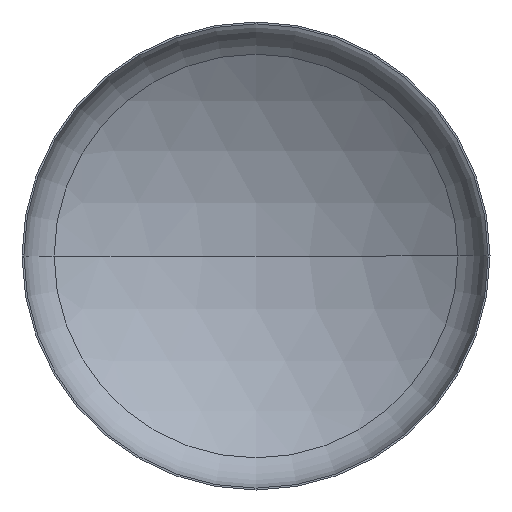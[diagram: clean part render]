
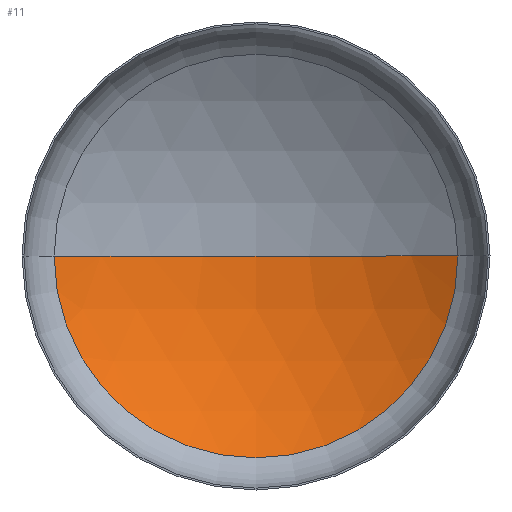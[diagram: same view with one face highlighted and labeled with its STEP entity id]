
A CAD part, front view. The second image highlights one B-rep face of the part: STEP entity #11.
In plain terms, the highlighted spherical face has radius 792 mm.
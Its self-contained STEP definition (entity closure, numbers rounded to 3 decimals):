
#3 = DIRECTION ( 'NONE',  ( -1., 0., 0. ) ) ;
#10 = AXIS2_PLACEMENT_3D ( 'NONE', #310, #32, #3 ) ;
#11 = ADVANCED_FACE ( 'NONE', ( #191 ), #193, .F. ) ;
#13 = AXIS2_PLACEMENT_3D ( 'NONE', #23, #211, #403 ) ;
#23 = CARTESIAN_POINT ( 'NONE',  ( 0., -541., 0. ) ) ;
#28 = EDGE_CURVE ( 'NONE', #411, #219, #228, .T. ) ;
#32 = DIRECTION ( 'NONE',  ( 0., 0., 1. ) ) ;
#51 = CIRCLE ( 'NONE', #13, 792. ) ;
#52 = CIRCLE ( 'NONE', #92, 792. ) ;
#80 = DIRECTION ( 'NONE',  ( 0., 0., -1. ) ) ;
#92 = AXIS2_PLACEMENT_3D ( 'NONE', #181, #80, #361 ) ;
#100 = CARTESIAN_POINT ( 'NONE',  ( 0., 123.239, 0. ) ) ;
#120 = CARTESIAN_POINT ( 'NONE',  ( 431.335, 123.239, 0. ) ) ;
#137 = EDGE_CURVE ( 'NONE', #219, #253, #52, .T. ) ;
#143 = ORIENTED_EDGE ( 'NONE', *, *, #28, .F. ) ;
#164 = DIRECTION ( 'NONE',  ( 0., 1., 0. ) ) ;
#176 = AXIS2_PLACEMENT_3D ( 'NONE', #100, #164, #289 ) ;
#181 = CARTESIAN_POINT ( 'NONE',  ( 0., -541., 0. ) ) ;
#191 = FACE_OUTER_BOUND ( 'NONE', #306, .T. ) ;
#193 = SPHERICAL_SURFACE ( 'NONE', #10, 792. ) ;
#211 = DIRECTION ( 'NONE',  ( 0., 0., 1. ) ) ;
#219 = VERTEX_POINT ( 'NONE', #386 ) ;
#228 = CIRCLE ( 'NONE', #176, 431.335 ) ;
#253 = VERTEX_POINT ( 'NONE', #288 ) ;
#288 = CARTESIAN_POINT ( 'NONE',  ( 0., 251., 0. ) ) ;
#289 = DIRECTION ( 'NONE',  ( -1., 0., 0. ) ) ;
#306 = EDGE_LOOP ( 'NONE', ( #143, #347, #341 ) ) ;
#310 = CARTESIAN_POINT ( 'NONE',  ( 0., -541., 0. ) ) ;
#338 = EDGE_CURVE ( 'NONE', #411, #253, #51, .T. ) ;
#341 = ORIENTED_EDGE ( 'NONE', *, *, #137, .F. ) ;
#347 = ORIENTED_EDGE ( 'NONE', *, *, #338, .T. ) ;
#361 = DIRECTION ( 'NONE',  ( -1., 0., 0. ) ) ;
#386 = CARTESIAN_POINT ( 'NONE',  ( -431.335, 123.239, 0. ) ) ;
#403 = DIRECTION ( 'NONE',  ( 1., 0., 0. ) ) ;
#411 = VERTEX_POINT ( 'NONE', #120 ) ;
